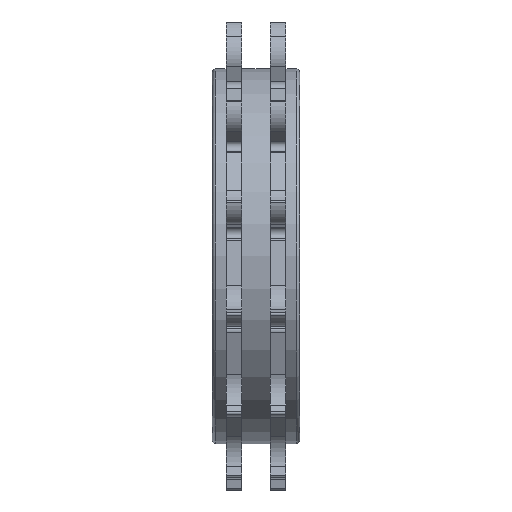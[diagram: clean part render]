
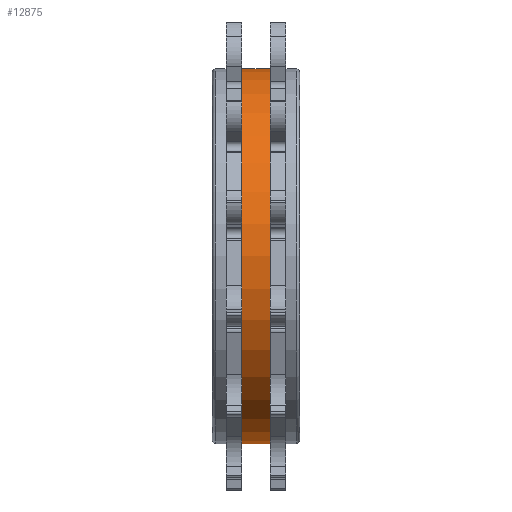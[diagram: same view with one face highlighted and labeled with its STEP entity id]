
A CAD part, front view. The second image highlights one B-rep face of the part: STEP entity #12875.
In plain terms, the highlighted cylindrical face has radius 107.5 mm (diameter 215 mm), a partial arc.
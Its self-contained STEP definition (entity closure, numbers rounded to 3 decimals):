
#2467=DIRECTION('',(-1.,0.,0.));
#2468=VECTOR('',#2467,16.4);
#2469=CARTESIAN_POINT('',(8.2,0.,107.5));
#2470=LINE('',#2469,#2468);
#2474=DIRECTION('',(-1.,0.,0.));
#2475=VECTOR('',#2474,16.4);
#2476=CARTESIAN_POINT('',(8.2,0.,-107.5));
#2477=LINE('',#2476,#2475);
#2489=CARTESIAN_POINT('',(8.2,0.,0.));
#2490=DIRECTION('',(1.,0.,0.));
#2491=DIRECTION('',(0.,0.,1.));
#2492=AXIS2_PLACEMENT_3D('',#2489,#2490,#2491);
#2497=CARTESIAN_POINT('',(-8.2,0.,0.));
#2498=DIRECTION('',(1.,0.,0.));
#2499=DIRECTION('',(0.,0.,1.));
#2500=AXIS2_PLACEMENT_3D('',#2497,#2498,#2499);
#10043=CARTESIAN_POINT('',(8.2,0.,107.5));
#10044=CARTESIAN_POINT('',(-8.2,0.,107.5));
#10045=VERTEX_POINT('',#10043);
#10046=VERTEX_POINT('',#10044);
#10047=CARTESIAN_POINT('',(8.2,0.,-107.5));
#10048=CARTESIAN_POINT('',(-8.2,0.,-107.5));
#10049=VERTEX_POINT('',#10047);
#10050=VERTEX_POINT('',#10048);
#12863=CARTESIAN_POINT('',(-9.02,0.,0.));
#12864=DIRECTION('',(1.,0.,0.));
#12865=DIRECTION('',(0.,0.,1.));
#12866=AXIS2_PLACEMENT_3D('',#12863,#12864,#12865);
#12867=CYLINDRICAL_SURFACE('',#12866,107.5);
#12868=ORIENTED_EDGE('',*,*,#12846,.F.);
#12869=ORIENTED_EDGE('',*,*,#12829,.T.);
#12870=ORIENTED_EDGE('',*,*,#12850,.T.);
#12872=ORIENTED_EDGE('',*,*,#12871,.F.);
#12873=EDGE_LOOP('',(#12868,#12869,#12870,#12872));
#12874=FACE_OUTER_BOUND('',#12873,.F.);
#2493=CIRCLE('',#2492,107.5);
#2501=CIRCLE('',#2500,107.5);
#12829=EDGE_CURVE('',#10045,#10049,#2493,.T.);
#12846=EDGE_CURVE('',#10045,#10046,#2470,.T.);
#12850=EDGE_CURVE('',#10049,#10050,#2477,.T.);
#12871=EDGE_CURVE('',#10046,#10050,#2501,.T.);
#12875=ADVANCED_FACE('',(#12874),#12867,.T.);
